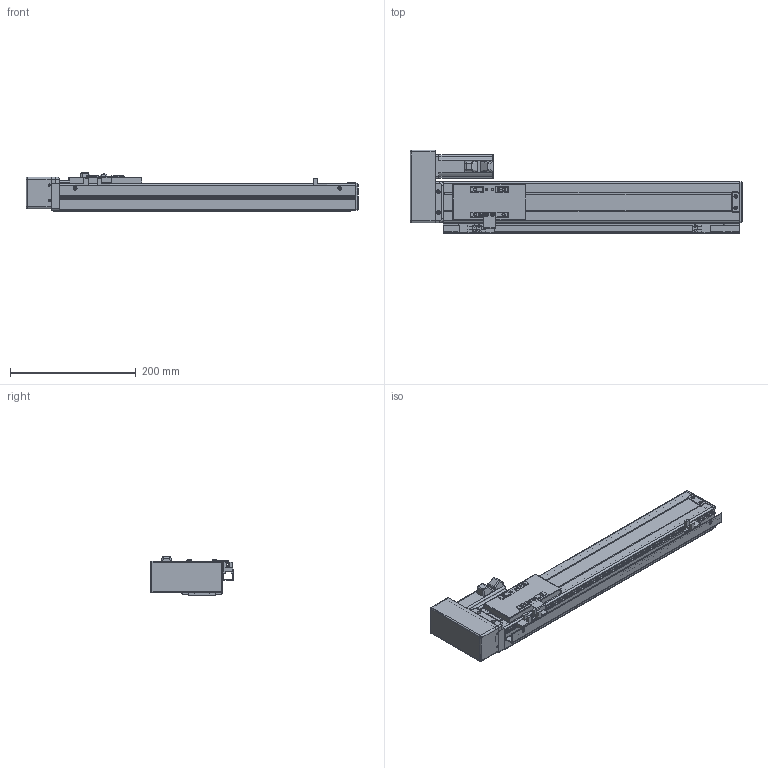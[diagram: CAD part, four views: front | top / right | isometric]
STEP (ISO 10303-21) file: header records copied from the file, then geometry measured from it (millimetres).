
FILE_DESCRIPTION (( 'STEP AP203' ), '1' );
FILE_NAME ('VT6-L10-C-S320-BR-P10-D4.STEP', '2015-10-26T06:16:13', ( '' ), ( '' ), 'SwSTEP 2.0', 'SolidWorks 2013', '' );
FILE_SCHEMA (( 'CONFIG_CONTROL_DESIGN' ));
Length unit declared in the file: millimetre
Products named in the file (17): ET6-BC耜啣_320; T6-賑雄殤; T6-裔啣; T6-揤輸; ET6-BLRM絳寢_俴最320; ET6-BLRM滅鳥湍_320; ET6-BLRM佪裝_320; T6-BMLRヶ傷裔; T6-BMRLヶ傷裔揤啣; T6-BMRL肮祭湍謫欶; T6-綴傷裔; 侂狟100W MSMD012G1U; T6-BRL萇儂假蚾啣; T6-覜茼え; ET6-BC癹弇羲壽羞_320; EE-XS674; VT6-L10-C-S320-BR-P10-D4
Assembly tree (19 placements, depth 2):
  VT6-L10-C-S320-BR-P10-D4
    ET6-BC耜啣_320  x2
    T6-賑雄殤
    T6-裔啣
    T6-揤輸
    T6-綴傷裔
    ET6-BLRM絳寢_俴最320
    ET6-BLRM滅鳥湍_320
    ET6-BLRM佪裝_320
    T6-BMLRヶ傷裔
    T6-BMRLヶ傷裔揤啣
    T6-BMRL肮祭湍謫欶
    侂狟100W MSMD012G1U
    T6-BRL萇儂假蚾啣
    T6-覜茼え
    ET6-BC癹弇羲壽羞_320
    EE-XS674  x3
Bounding box: 527 x 133 x 61 mm (x, y, z)
Volume: 709923.1 mm3; surface area: 430887.9 mm2
Topology: 19 solids, 19 shells, 889 faces, 2352 edges, 1488 vertices
Faces by surface type: cylinder 415, plane 374, cone 46, torus 36, sphere 18
Entity records: 27397 total; most frequent: CARTESIAN_POINT 4609, DIRECTION 4574, ORIENTED_EDGE 4222, EDGE_CURVE 2111, AXIS2_PLACEMENT_3D 1673, VERTEX_POINT 1348, LINE 1228, VECTOR 1228
